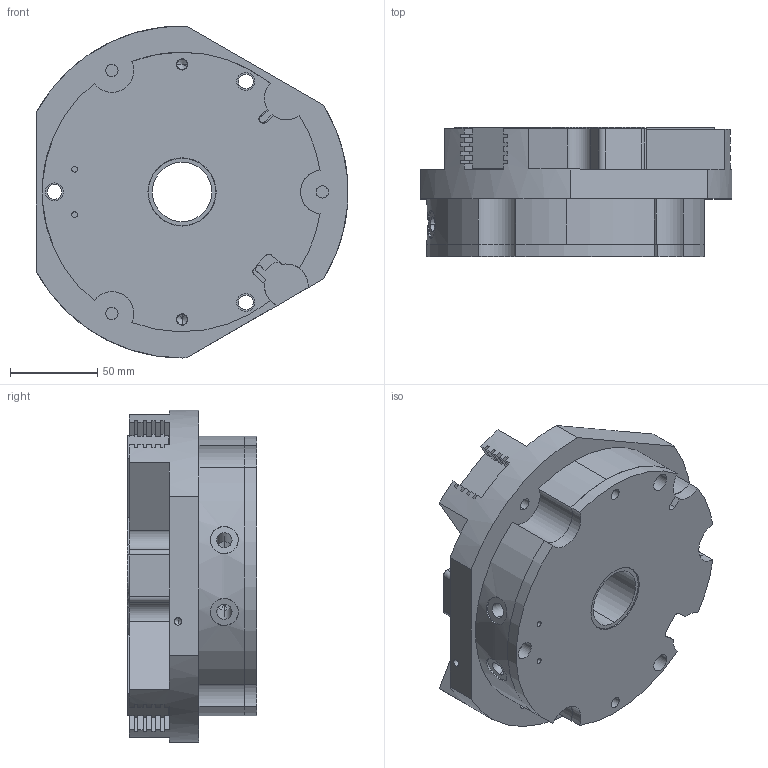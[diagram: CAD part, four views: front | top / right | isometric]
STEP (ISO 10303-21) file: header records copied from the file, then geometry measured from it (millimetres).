
FILE_DESCRIPTION (( 'STEP AP214' ), '1' );
FILE_NAME ('THB-160A-1.STEP', '2020-09-11T02:07:29', ( '' ), ( '' ), 'SwSTEP 2.0', 'SolidWorks 2016', '' );
FILE_SCHEMA (( 'AUTOMOTIVE_DESIGN' ));
Length unit declared in the file: millimetre
Products named in the file (6): THB-160A-1-03; THB-160A-1-02; THB-160A-1; THB-160A-1-05; THB-160A-1-01; THB-160A-1-04
Assembly tree (7 placements, depth 2):
  THB-160A-1
    THB-160A-1-01
    THB-160A-1-02  x3
    THB-160A-1-03
    THB-160A-1-04
    THB-160A-1-05
Bounding box: 178.4 x 74 x 189.97 mm (x, y, z)
Volume: 1259739.6 mm3; surface area: 227326.7 mm2
Topology: 7 solids, 7 shells, 553 faces, 1559 edges, 1018 vertices
Faces by surface type: plane 303, cylinder 194, cone 56
Entity records: 14909 total; most frequent: CARTESIAN_POINT 2612, DIRECTION 2591, ORIENTED_EDGE 2406, EDGE_CURVE 1203, AXIS2_PLACEMENT_3D 949, VERTEX_POINT 798, VECTOR 693, LINE 693
